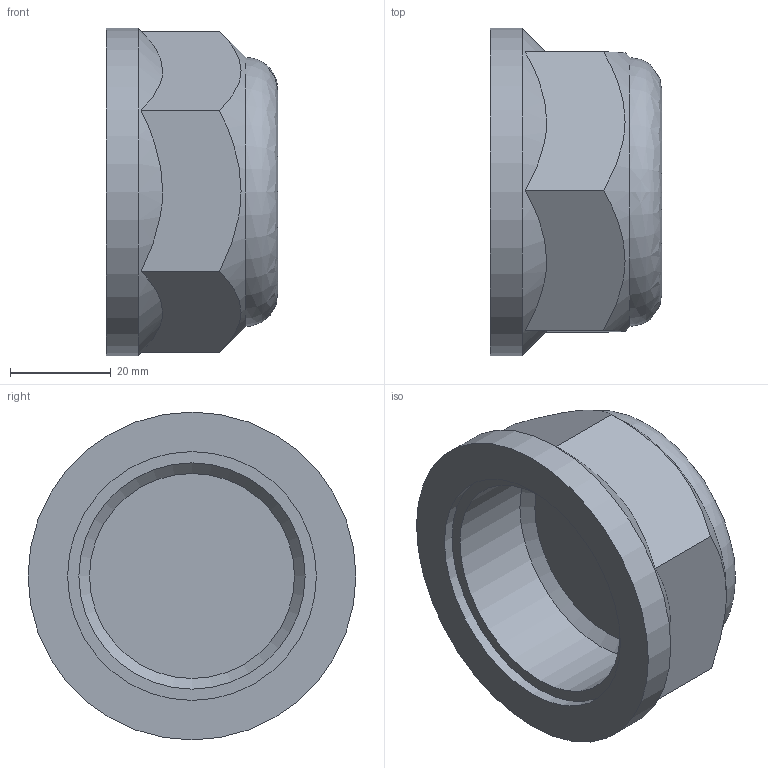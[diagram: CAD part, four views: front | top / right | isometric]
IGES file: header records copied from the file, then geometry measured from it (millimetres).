
Global section: file name: 050707015_0507070150A.ipt; native system: Autodesk Inventor 2015; preprocessor: unknown; author: KIM; date: 20170618.093308; units: millimetre
Bounding box: 34 x 65 x 65 mm (x, y, z)
Volume: 57281.7 mm3; surface area: 14743.1 mm2
Topology: 1 solids, 1 shells, 17 faces, 55 edges, 42 vertices
Faces by surface type: plane 10, revolution 4, cone 2, cylinder 1
Full cylindrical faces by diameter (mm): 65 x1
